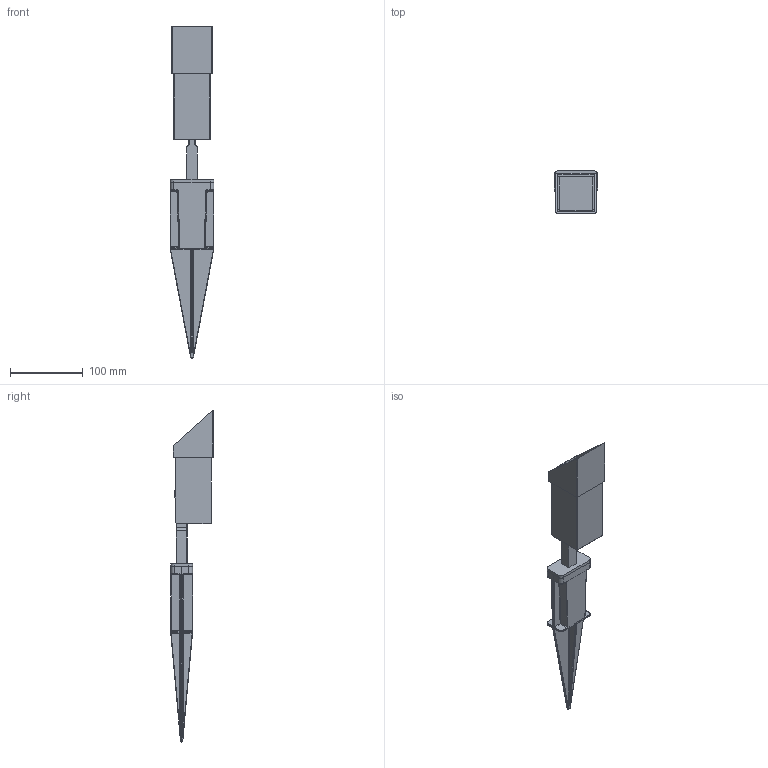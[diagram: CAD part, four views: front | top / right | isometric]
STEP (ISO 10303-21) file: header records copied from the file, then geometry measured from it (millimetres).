
FILE_DESCRIPTION((''),'2;1');
FILE_NAME('POWER_GARDEN_SW0001','2026-04-02T16:55:54',('Piccioli'),(''),'CREO PARAMETRIC BY PTC INC, 2025010','CREO PARAMETRIC BY PTC INC, 2025010','');
FILE_SCHEMA(('CONFIG_CONTROL_DESIGN'));
Length unit declared in the file: millimetre
Products named in the file (1): POWER_GARDEN_SW0001
Bounding box: 60 x 58.5 x 456.4 mm (x, y, z)
Surface area: 89468.2 mm2 (no closed solid volume)
Topology: 0 solids, 9 shells, 293 faces, 756 edges, 460 vertices
Faces by surface type: cylinder 120, plane 83, bspline 68, sphere 10, torus 8, cone 4
Entity records: 17885 total; most frequent: CARTESIAN_POINT 11366, ORIENTED_EDGE 1370, DIRECTION 1230, EDGE_CURVE 756, VERTEX_POINT 460, AXIS2_PLACEMENT_3D 439, VECTOR 352, LINE 352
